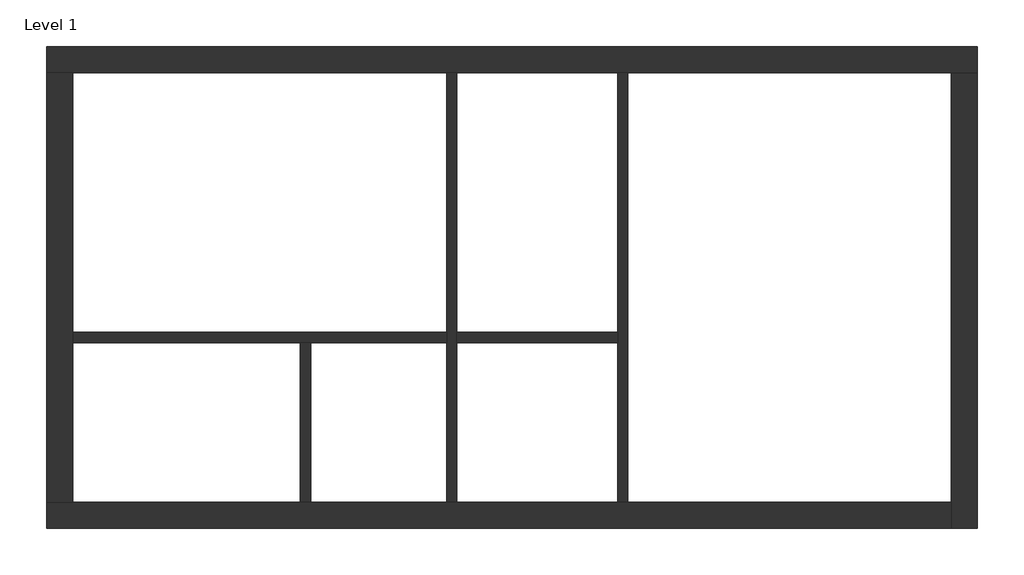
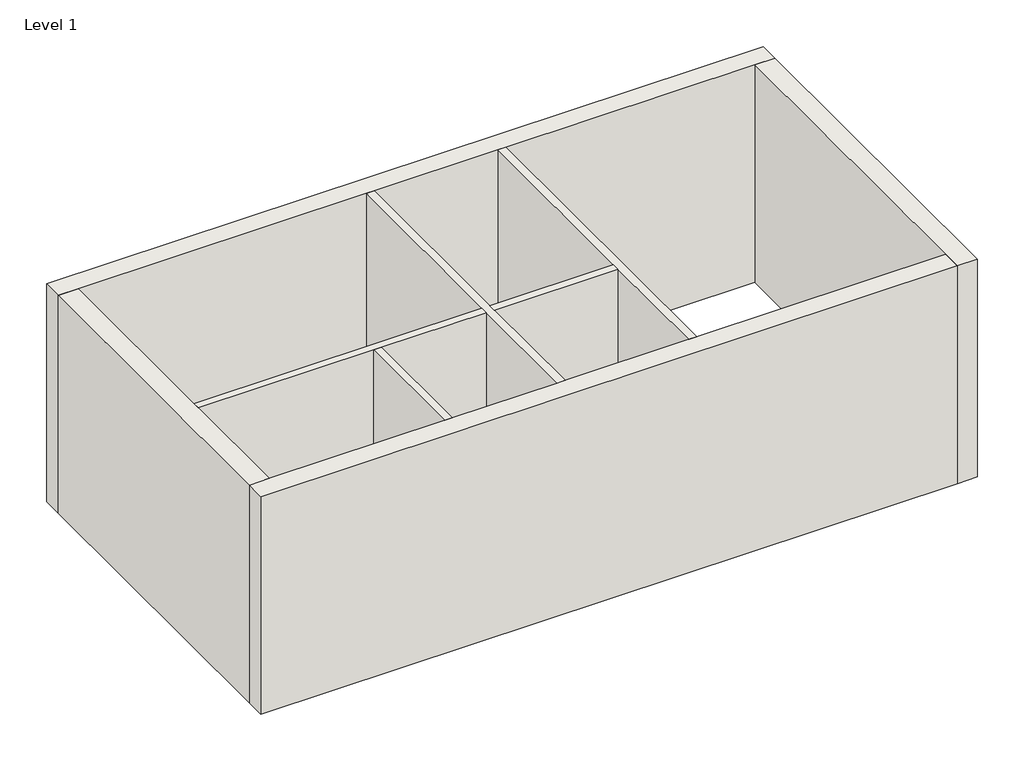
# One storey: 8 walls.
"""IFC4 building model written with IfcOpenShell, lengths in millimetres."""

import ifcopenshell
import ifcopenshell.guid

model = None  # the IFC model being written
_history = None  # IfcOwnerHistory: only IFC2X3 demands one
_inside = {}  # id of a spatial element -> (the spatial element, [elements in it])
_under = {}  # id of a project, library or spatial element -> (it, [spatial elements below it])
_declared = {}  # id of a project -> (the project, [libraries it declares])
_typed = {}  # id of a type object -> (the type object, [elements of that type])
_made_of = {}  # id of a material, layer set ... -> (it, [elements and type objects made of it])


def new_model(schema):
    """Start an empty IFC model of exactly this schema.

    Asked for "IFC4X3", IfcOpenShell would pick the latest addendum, in which some entities
    have other attributes; the version numbers below select the first issue.
    IFC2X3 requires an IfcOwnerHistory on every rooted entity: one is made here for all.
    """
    global model, _history
    if schema == "IFC4X3":
        model = ifcopenshell.file(schema_version=(4, 3, 0, 0))
    else:
        model = ifcopenshell.file(schema=schema)
    _inside.clear()
    _under.clear()
    _declared.clear()
    _typed.clear()
    _made_of.clear()
    _history = None
    if model.schema == "IFC2X3":
        org = make("IfcOrganization", Name="unknown")
        user = make(
            "IfcPersonAndOrganization",
            ThePerson=make("IfcPerson", FamilyName="unknown"),
            TheOrganization=org,
        )
        app = make(
            "IfcApplication",
            ApplicationDeveloper=org,
            Version="unknown",
            ApplicationFullName="unknown",
            ApplicationIdentifier="unknown",
        )
        _history = make(
            "IfcOwnerHistory",
            OwningUser=user,
            OwningApplication=app,
            ChangeAction="ADDED",
            CreationDate=0,
        )
    return model


def make(cls, **values):
    """One entity of the class cls with the attributes given. An attribute that is None is left unset."""
    return model.create_entity(
        cls, **{name: value for name, value in values.items() if value is not None}
    )


def rooted(cls, **values):
    """An entity with a GlobalId (a new one), such as an element, a storey or a relation."""
    return make(cls, GlobalId=ifcopenshell.guid.new(), OwnerHistory=_history, **values)


def si_unit(unit_type, name, prefix=None):
    """IfcSIUnit, for example si_unit("LENGTHUNIT", "METRE", prefix="MILLI")."""
    return make("IfcSIUnit", UnitType=unit_type, Prefix=prefix, Name=name)


def assignment(units):
    """IfcUnitAssignment: the units of a project."""
    return None if units is None else make("IfcUnitAssignment", Units=units)


def point(xyz):
    """IfcCartesianPoint."""
    return None if xyz is None else make("IfcCartesianPoint", Coordinates=xyz)


def direction(xyz):
    """IfcDirection."""
    return None if xyz is None else make("IfcDirection", DirectionRatios=xyz)


def frame(location, z_axis=None, x_axis=None):
    """IfcAxis2Placement3D, a coordinate frame: its origin and axes. An axis left out is left unset."""
    return make(
        "IfcAxis2Placement3D",
        Location=point(location),
        Axis=direction(z_axis),
        RefDirection=direction(x_axis),
    )


def origin():
    """The frame at (0, 0, 0) with its axes left unset."""
    return frame((0.0, 0.0, 0.0))


def origin_with_axes():
    """The frame at (0, 0, 0) with the z axis (0, 0, 1) and the x axis (1, 0, 0) written out."""
    return frame((0.0, 0.0, 0.0), z_axis=(0.0, 0.0, 1.0), x_axis=(1.0, 0.0, 0.0))


def place(relative_to, where):
    """IfcLocalPlacement: puts the frame where relative to a parent placement (None: the world)."""
    return make(
        "IfcLocalPlacement", PlacementRelTo=relative_to, RelativePlacement=where
    )


def context(
    kind, dimensions, precision=None, world=None, true_north=None, identifier=None
):
    """IfcGeometricRepresentationContext, for example the 3D "Model" context."""
    return make(
        "IfcGeometricRepresentationContext",
        ContextIdentifier=identifier,
        ContextType=kind,
        CoordinateSpaceDimension=dimensions,
        Precision=precision,
        WorldCoordinateSystem=world,
        TrueNorth=true_north,
    )


def project(units=None, contexts=None):
    """IfcProject with its units and contexts."""
    return rooted(
        "IfcProject",
        Name="project",
        RepresentationContexts=contexts,
        UnitsInContext=assignment(units),
    )


def spatial(cls, under=None, at=None, **own):
    """A site, building, storey or space (cls), placed at a placement, below another one or the project."""
    s = rooted(cls, ObjectPlacement=at, **own)
    if under is not None:
        _under.setdefault(under.id(), (under, []))[1].append(s)
    return s


def polyline(points):
    """IfcPolyline through the points."""
    return make("IfcPolyline", Points=[point(p) for p in points])


def outline(outer, holes=None, kind="AREA"):
    """IfcArbitraryClosedProfileDef: a profile drawn as a closed curve; with holes, ...WithVoids."""
    if holes is None:
        return make("IfcArbitraryClosedProfileDef", ProfileType=kind, OuterCurve=outer)
    return make(
        "IfcArbitraryProfileDefWithVoids",
        ProfileType=kind,
        OuterCurve=outer,
        InnerCurves=holes,
    )


def extrude(swept, where, along, depth):
    """IfcExtrudedAreaSolid: the profile swept, set in the frame where, extruded along a direction by depth."""
    return make(
        "IfcExtrudedAreaSolid",
        SweptArea=swept,
        Position=where,
        ExtrudedDirection=direction(along),
        Depth=depth,
    )


def faces_of(points, faces, orient=None, outer=None):
    """IfcFace entities. A face is a list of loops; a loop is a list of indices into points, from 0.

    orient and outer hold one flag for each loop. By default every Orientation is true, the
    first loop of a face is its IfcFaceOuterBound and the others are IfcFaceBound.
    """
    made = []
    for i, loops in enumerate(faces):
        bounds = []
        for j, loop in enumerate(loops):
            is_outer = j == 0 if outer is None else outer[i][j]
            bounds.append(
                make(
                    "IfcFaceOuterBound" if is_outer else "IfcFaceBound",
                    Bound=make("IfcPolyLoop", Polygon=[points[k] for k in loop]),
                    Orientation=True if orient is None else orient[i][j],
                )
            )
        made.append(make("IfcFace", Bounds=bounds))
    return made


def faceted_brep(points, faces, orient=None, outer=None, voids=None):
    """IfcFacetedBrep: a solid bounded by flat faces; with voids (closed shells), ...WithVoids."""
    shared = [point(p) for p in points]
    hull = make("IfcClosedShell", CfsFaces=faces_of(shared, faces, orient, outer))
    if voids is None:
        return make("IfcFacetedBrep", Outer=hull)
    return make(
        "IfcFacetedBrepWithVoids",
        Outer=hull,
        Voids=[
            make(cls, CfsFaces=faces_of(shared, fs, o, b)) for cls, fs, o, b in voids
        ],
    )


def shape(context_of_items, identifier, shape_type, items):
    """IfcShapeRepresentation: the items that make up one representation, for example the "Body"."""
    return make(
        "IfcShapeRepresentation",
        ContextOfItems=context_of_items,
        RepresentationIdentifier=identifier,
        RepresentationType=shape_type,
        Items=items,
    )


def made_of(thing, what):
    """Note that an element or type object is made of a material, layer set ...; save() writes the relation."""
    if what is not None:
        _made_of.setdefault(what.id(), (what, []))[1].append(thing)
    return thing


def element(
    cls,
    number,
    at=None,
    inside=None,
    cuts=None,
    type_object=None,
    material=None,
    context=None,
    identifier="Body",
    shape_type=None,
    held_by="IfcProductDefinitionShape",
    body=None,
    shapes=None,
    **own,
):
    """One element of the class cls, such as IfcWall. Its Tag is "e" and its number.

    at: its placement. inside: the storey or other place that contains it. cuts: it is an
    opening in that element (IfcRelVoidsElement). A single representation is given by context,
    identifier, shape_type and body (its items); several are given by shapes. held_by: the class
    of the entity that holds the representations. save() writes the other relations.
    """
    e = rooted(cls, Tag="e%d" % number, ObjectPlacement=at, **own)
    if body is not None:
        shapes = [shape(context, identifier, shape_type, body)]
    if shapes is not None:
        e.Representation = make(held_by, Representations=shapes)
    if inside is not None:
        _inside.setdefault(inside.id(), (inside, []))[1].append(e)
    if cuts is not None:
        rooted(
            "IfcRelVoidsElement", RelatingBuildingElement=cuts, RelatedOpeningElement=e
        )
    if type_object is not None:
        _typed.setdefault(type_object.id(), (type_object, []))[1].append(e)
    return made_of(e, material)


def aggregate(whole, parts):
    """IfcRelAggregates: a whole, such as a stair, and the parts it consists of."""
    return rooted("IfcRelAggregates", RelatingObject=whole, RelatedObjects=parts)


def save(model, path):
    """Write the relations noted so far, then the file.

    IfcRelAggregates (storeys below a building ...), IfcRelContainedInSpatialStructure (elements
    in a storey), IfcRelDefinesByType, IfcRelAssociatesMaterial and IfcRelDeclares: one each for
    every whole, place, type object, material and project.
    """
    for whole, parts in _under.values():
        aggregate(whole, parts)
    for where, things in _inside.values():
        rooted(
            "IfcRelContainedInSpatialStructure",
            RelatedElements=things,
            RelatingStructure=where,
        )
    for kind, things in _typed.values():
        rooted("IfcRelDefinesByType", RelatedObjects=things, RelatingType=kind)
    for what, things in _made_of.values():
        rooted("IfcRelAssociatesMaterial", RelatedObjects=things, RelatingMaterial=what)
    for by, libraries in _declared.values():
        rooted("IfcRelDeclares", RelatingContext=by, RelatedDefinitions=libraries)
    model.write(path)


model = new_model("IFC4")

# Units and contexts
model_context = context("Model", 3, world=origin())
ifc_project = project(units=[si_unit("LENGTHUNIT", "METRE", prefix="MILLI")], contexts=[model_context])

# Site, building, storey
site = spatial("IfcSite", under=ifc_project)
building = spatial("IfcBuilding", under=site)
storey = spatial("IfcBuildingStorey", under=building, Name="Level 1", Elevation=0.0)

# Walls
placement = place(None, origin())
element("IfcWall", 1, ObjectType="Exterior - Brick on Mtl. Stud", at=placement, inside=storey, context=model_context, shape_type="Brep", body=[
    faceted_brep([(-18551.8430086, 13851.0670483, 0.0), (-18201.8430086, 13851.0670483, 0.0), (-13194.8430086, 13851.0670483, 0.0), (-13059.3430086, 13851.0670483, 0.0), (-10908.8430086, 13851.0670483, 0.0), (-10773.3430086, 13851.0670483, 0.0), (-6444.0930086, 13851.0670483, 0.0), (-6094.0930086, 13851.0670483, 0.0), (-6094.0930086, 13851.0670483, 4000.0), (-6444.0930086, 13851.0670483, 4000.0), (-10773.3430086, 13851.0670483, 4000.0), (-10908.8430086, 13851.0670483, 4000.0), (-13059.3430086, 13851.0670483, 4000.0), (-13194.8430086, 13851.0670483, 4000.0), (-18201.8430086, 13851.0670483, 4000.0), (-18551.8430086, 13851.0670483, 4000.0), (-18551.8430086, 14201.0670483, 0.0), (-18551.8430086, 14201.0670483, 4000.0), (-6094.0930086, 14201.0670483, 4000.0), (-6094.0930086, 14201.0670483, 0.0)], [[[0, 1, 2, 3, 4, 5, 6, 7, 8, 9, 10, 11, 12, 13, 14, 15]], [[16, 17, 18, 19]], [[7, 6, 5, 4, 3, 2, 1, 0, 16, 19]], [[15, 14, 13, 12, 11, 10, 9, 8, 18, 17]], [[8, 7, 19, 18]], [[0, 15, 17, 16]]]),
])
element("IfcWall", 2, ObjectType="Exterior - Brick on Mtl. Stud", at=placement, inside=storey, context=model_context, shape_type="Brep", body=[
    faceted_brep([(-6444.0930086, 13851.0670483, 0.0), (-6444.0930086, 8105.0670483, 0.0), (-6444.0930086, 7755.0670483, 0.0), (-6444.0930086, 7755.0670483, 4000.0), (-6444.0930086, 8105.0670483, 4000.0), (-6444.0930086, 13851.0670483, 4000.0), (-6094.0930086, 13851.0670483, 0.0), (-6094.0930086, 13851.0670483, 4000.0), (-6094.0930086, 7755.0670483, 4000.0), (-6094.0930086, 7755.0670483, 0.0)], [[[0, 1, 2, 3, 4, 5]], [[6, 7, 8, 9]], [[2, 1, 0, 6, 9]], [[5, 4, 3, 8, 7]], [[0, 5, 7, 6]], [[3, 2, 9, 8]]]),
])
element("IfcWall", 3, ObjectType="Exterior - Brick on Mtl. Stud", at=placement, inside=storey, context=model_context, shape_type="Brep", body=[
    faceted_brep([(-6444.0930086, 8105.0670483, 0.0), (-10773.3430086, 8105.0670483, 0.0), (-10908.8430086, 8105.0670483, 0.0), (-13059.3430086, 8105.0670483, 0.0), (-13194.8430086, 8105.0670483, 0.0), (-15018.3430086, 8105.0670483, 0.0), (-15153.8430086, 8105.0670483, 0.0), (-18201.8430086, 8105.0670483, 0.0), (-18551.8430086, 8105.0670483, 0.0), (-18551.8430086, 8105.0670483, 4000.0), (-18201.8430086, 8105.0670483, 4000.0), (-15153.8430086, 8105.0670483, 4000.0), (-15018.3430086, 8105.0670483, 4000.0), (-13194.8430086, 8105.0670483, 4000.0), (-13059.3430086, 8105.0670483, 4000.0), (-10908.8430086, 8105.0670483, 4000.0), (-10773.3430086, 8105.0670483, 4000.0), (-6444.0930086, 8105.0670483, 4000.0), (-6444.0930086, 7755.0670483, 0.0), (-6444.0930086, 7755.0670483, 4000.0), (-18551.8430086, 7755.0670483, 4000.0), (-18551.8430086, 7755.0670483, 0.0)], [[[0, 1, 2, 3, 4, 5, 6, 7, 8, 9, 10, 11, 12, 13, 14, 15, 16, 17]], [[18, 19, 20, 21]], [[8, 7, 6, 5, 4, 3, 2, 1, 0, 18, 21]], [[17, 16, 15, 14, 13, 12, 11, 10, 9, 20, 19]], [[0, 17, 19, 18]], [[9, 8, 21, 20]]]),
])
element("IfcWall", 4, ObjectType="Exterior - Brick on Mtl. Stud", at=placement, inside=storey, context=model_context, shape_type="Brep", body=[
    faceted_brep([(-18201.8430086, 8105.0670483, 0.0), (-18201.8430086, 10239.0670483, 0.0), (-18201.8430086, 10374.5670483, 0.0), (-18201.8430086, 13851.0670483, 0.0), (-18201.8430086, 13851.0670483, 4000.0), (-18201.8430086, 10374.5670483, 4000.0), (-18201.8430086, 10239.0670483, 4000.0), (-18201.8430086, 8105.0670483, 4000.0), (-18551.8430086, 8105.0670483, 0.0), (-18551.8430086, 8105.0670483, 4000.0), (-18551.8430086, 13851.0670483, 4000.0), (-18551.8430086, 13851.0670483, 0.0)], [[[0, 1, 2, 3, 4, 5, 6, 7]], [[8, 9, 10, 11]], [[3, 2, 1, 0, 8, 11]], [[7, 6, 5, 4, 10, 9]], [[0, 7, 9, 8]], [[4, 3, 11, 10]]]),
])
element("IfcWall", 5, ObjectType="Interior - 135mm Partition (2-hr)", at=placement, inside=storey, context=model_context, shape_type="Brep", body=[
    faceted_brep([(-10908.8430086, 13851.0670483, 0.0), (-10908.8430086, 10374.5670483, 0.0), (-10908.8430086, 10239.0670483, 0.0), (-10908.8430086, 8105.0670483, 0.0), (-10908.8430086, 8105.0670483, 4000.0), (-10908.8430086, 10239.0670483, 4000.0), (-10908.8430086, 10374.5670483, 4000.0), (-10908.8430086, 13851.0670483, 4000.0), (-10773.3430086, 13851.0670483, 0.0), (-10773.3430086, 13851.0670483, 4000.0), (-10773.3430086, 8105.0670483, 4000.0), (-10773.3430086, 8105.0670483, 0.0)], [[[0, 1, 2, 3, 4, 5, 6, 7]], [[8, 9, 10, 11]], [[3, 2, 1, 0, 8, 11]], [[7, 6, 5, 4, 10, 9]], [[0, 7, 9, 8]], [[4, 3, 11, 10]]]),
])
element("IfcWall", 6, ObjectType="Interior - 135mm Partition (2-hr)", at=placement, inside=storey, context=model_context, shape_type="Brep", body=[
    faceted_brep([(-13194.8430086, 13851.0670483, 0.0), (-13194.8430086, 10374.5670483, 0.0), (-13194.8430086, 10239.0670483, 0.0), (-13194.8430086, 8105.0670483, 0.0), (-13194.8430086, 8105.0670483, 4000.0), (-13194.8430086, 10239.0670483, 4000.0), (-13194.8430086, 10374.5670483, 4000.0), (-13194.8430086, 13851.0670483, 4000.0), (-13059.3430086, 13851.0670483, 0.0), (-13059.3430086, 13851.0670483, 4000.0), (-13059.3430086, 10374.5670483, 4000.0), (-13059.3430086, 10239.0670483, 4000.0), (-13059.3430086, 8105.0670483, 4000.0), (-13059.3430086, 8105.0670483, 0.0), (-13059.3430086, 10239.0670483, 0.0), (-13059.3430086, 10374.5670483, 0.0)], [[[0, 1, 2, 3, 4, 5, 6, 7]], [[8, 9, 10, 11, 12, 13, 14, 15]], [[3, 2, 1, 0, 8, 15, 14, 13]], [[7, 6, 5, 4, 12, 11, 10, 9]], [[0, 7, 9, 8]], [[4, 3, 13, 12]]]),
])
element("IfcWall", 7, ObjectType="Interior - 135mm Partition (2-hr)", at=placement, inside=storey, context=model_context, shape_type="Brep", body=[
    faceted_brep([(-18201.8430086, 10239.0670483, 4000.0), (-18201.8430086, 10239.0670483, 0.0), (-15153.8430086, 10239.0670483, 0.0), (-15018.3430086, 10239.0670483, 0.0), (-13194.8430086, 10239.0670483, 0.0), (-13194.8430086, 10239.0670483, 4000.0), (-15018.3430086, 10239.0670483, 4000.0), (-15153.8430086, 10239.0670483, 4000.0), (-18201.8430086, 10374.5670483, 0.0), (-18201.8430086, 10374.5670483, 4000.0), (-13194.8430086, 10374.5670483, 4000.0), (-13194.8430086, 10374.5670483, 0.0)], [[[0, 1, 2, 3, 4, 5, 6, 7]], [[8, 9, 10, 11]], [[1, 8, 11, 4, 3, 2]], [[9, 0, 7, 6, 5, 10]], [[1, 0, 9, 8]], [[5, 4, 11, 10]]]),
    faceted_brep([(-10908.8430086, 10239.0670483, 0.0), (-10908.8430086, 10239.0670483, 4000.0), (-13059.3430086, 10239.0670483, 4000.0), (-13059.3430086, 10239.0670483, 0.0), (-10908.8430086, 10374.5670483, 4000.0), (-10908.8430086, 10374.5670483, 0.0), (-13059.3430086, 10374.5670483, 0.0), (-13059.3430086, 10374.5670483, 4000.0)], [[[0, 1, 2, 3]], [[4, 5, 6, 7]], [[5, 0, 3, 6]], [[1, 4, 7, 2]], [[1, 0, 5, 4]], [[3, 2, 7, 6]]]),
])
element("IfcWall", 8, ObjectType="Interior - 135mm Partition (2-hr)", at=placement, inside=storey, context=model_context, shape_type="SweptSolid", body=[
    extrude(outline(polyline([(-15018.3430086, 10239.0670483), (-15018.3430086, 8105.0670483), (-15153.8430086, 8105.0670483), (-15153.8430086, 10239.0670483), (-15018.3430086, 10239.0670483)])), origin_with_axes(), (0.0, 0.0, 1.0), 4000.0),
])

save(model, "model.ifc")
